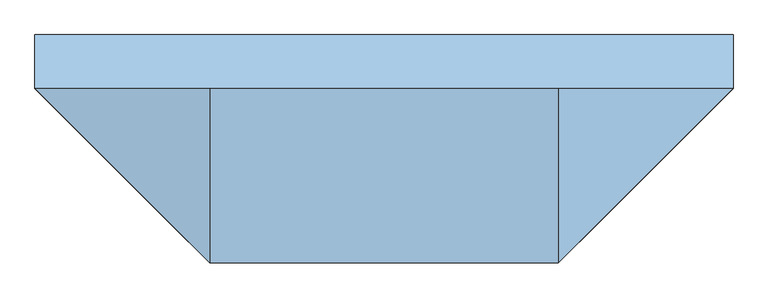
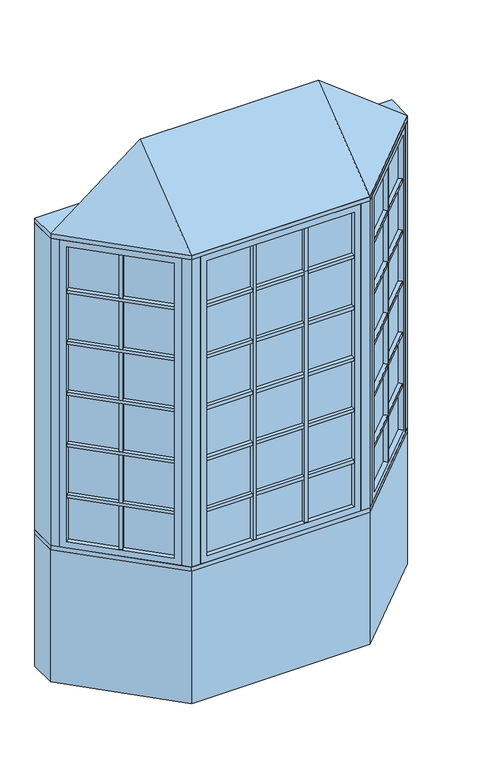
"""IFC4 building model written with IfcOpenShell, lengths in millimetres: window geometry, Pollard_Windows_Tudor Casement Bows and Bays : AML-BAY 45 AFR0518-10-600_GC."""

from ifc_helpers import new_model, si_unit, frame, origin, origin_with_axes, place, context, project, spatial, polyline, outline, extrude, faceted_brep, source, transform, mapped, element, save


def window_abdb0844(model_context):
    return source(origin(), model_context, "Body", "SolidModel", [
        extrude(outline(polyline([(553.0114193, -506.9608753), (537.4550701, -491.4045261), (915.116171, -113.7434252), (930.6725202, -129.2997743), (553.0114193, -506.9608753)])), frame((0.0, 0.0, 1690.998), z_axis=(0.0, 0.0, 1.0), x_axis=(1.0, 0.0, 0.0)), (0.0, 0.0, 1.0), 18.0),
        extrude(outline(polyline([(533.8629677, -487.8124236), (518.3066185, -472.2560744), (895.9677194, -94.5949735), (911.5240686, -110.1513227), (533.8629677, -487.8124236)])), frame((0.0, 0.0, 1690.998), z_axis=(0.0, 0.0, 1.0), x_axis=(1.0, 0.0, 0.0)), (0.0, 0.0, 1.0), 18.0),
        extrude(outline(polyline([(553.0114193, -506.9608753), (537.4550701, -491.4045261), (915.116171, -113.7434252), (930.6725202, -129.2997743), (553.0114193, -506.9608753)])), frame((0.0, 0.0, 1090.998), z_axis=(0.0, 0.0, 1.0), x_axis=(1.0, 0.0, 0.0)), (0.0, 0.0, 1.0), 18.0),
        extrude(outline(polyline([(533.8629677, -487.8124236), (518.3066185, -472.2560744), (895.9677194, -94.5949735), (911.5240686, -110.1513227), (533.8629677, -487.8124236)])), frame((0.0, 0.0, 1090.998), z_axis=(0.0, 0.0, 1.0), x_axis=(1.0, 0.0, 0.0)), (0.0, 0.0, 1.0), 18.0),
        extrude(outline(polyline([(553.0114193, -506.9608753), (537.4550701, -491.4045261), (915.116171, -113.7434252), (930.6725202, -129.2997743), (553.0114193, -506.9608753)])), frame((0.0, 0.0, 1390.998), z_axis=(0.0, 0.0, 1.0), x_axis=(1.0, 0.0, 0.0)), (0.0, 0.0, 1.0), 18.0),
        extrude(outline(polyline([(533.8629677, -487.8124236), (518.3066185, -472.2560744), (895.9677194, -94.5949735), (911.5240686, -110.1513227), (533.8629677, -487.8124236)])), frame((0.0, 0.0, 1390.998), z_axis=(0.0, 0.0, 1.0), x_axis=(1.0, 0.0, 0.0)), (0.0, 0.0, 1.0), 18.0),
        extrude(outline(polyline([(553.0114193, -506.9608753), (537.4550701, -491.4045261), (915.116171, -113.7434252), (930.6725202, -129.2997743), (553.0114193, -506.9608753)])), frame((0.0, 0.0, 1990.998), z_axis=(0.0, 0.0, 1.0), x_axis=(1.0, 0.0, 0.0)), (0.0, 0.0, 1.0), 18.0),
        extrude(outline(polyline([(533.8629677, -487.8124236), (518.3066185, -472.2560744), (895.9677194, -94.5949735), (911.5240686, -110.1513227), (533.8629677, -487.8124236)])), frame((0.0, 0.0, 1990.998), z_axis=(0.0, 0.0, 1.0), x_axis=(1.0, 0.0, 0.0)), (0.0, 0.0, 1.0), 18.0),
        extrude(outline(polyline([(553.0114193, -506.9608753), (537.4550701, -491.4045261), (915.116171, -113.7434252), (930.6725202, -129.2997743), (553.0114193, -506.9608753)])), frame((0.0, 0.0, 2290.998), z_axis=(0.0, 0.0, 1.0), x_axis=(1.0, 0.0, 0.0)), (0.0, 0.0, 1.0), 18.0),
        extrude(outline(polyline([(533.8629677, -487.8124236), (518.3066185, -472.2560744), (895.9677194, -94.5949735), (911.5240686, -110.1513227), (533.8629677, -487.8124236)])), frame((0.0, 0.0, 2290.998), z_axis=(0.0, 0.0, 1.0), x_axis=(1.0, 0.0, 0.0)), (0.0, 0.0, 1.0), 18.0),
        extrude(outline(polyline([(732.6495816, -296.2100146), (748.2059308, -311.7663638), (735.4780087, -324.4942858), (719.9216595, -308.9379366), (732.6495816, -296.2100146)])), frame((0.0, 0.0, 835.8628), z_axis=(0.0, 0.0, 1.0), x_axis=(1.0, 0.0, 0.0)), (0.0, 0.0, 1.0), 1728.2704),
        extrude(outline(polyline([(729.0574791, -292.6179121), (716.3295571, -305.3458342), (700.7732079, -289.789485), (713.50113, -277.0615629), (729.0574791, -292.6179121)])), frame((0.0, 0.0, 835.8628), z_axis=(0.0, 0.0, 1.0), x_axis=(1.0, 0.0, 0.0)), (0.0, 0.0, 1.0), 1728.2704),
        extrude(outline(polyline([(924.0964271, -104.763169), (528.474814, -500.3847822), (524.8827115, -496.7926797), (920.5043247, -101.1710666), (924.0964271, -104.763169)])), frame((0.0, 0.0, 823.1628), z_axis=(0.0, 0.0, 1.0), x_axis=(1.0, 0.0, 0.0)), (0.0, 0.0, 1.0), 1753.6704),
        faceted_brep([(915.116171, -113.7434252, 835.8628), (933.0766833, -131.7039374, 835.8628), (933.0766833, -131.7039374, 2564.1332), (915.116171, -113.7434252, 2564.1332), (920.5043247, -101.1710666, 823.1628), (924.0964271, -104.763169, 823.1628), (924.0964271, -104.763169, 2576.8332), (920.5043247, -101.1710666, 2576.8332), (893.5635563, -92.1908105, 835.8628), (911.5240686, -110.1513227, 835.8628), (911.5240686, -110.1513227, 2564.1332), (893.5635563, -92.1908105, 2564.1332), (958.4369265, -106.3436941, 799.998), (918.9237996, -66.8305672, 799.998), (918.9237996, -66.8305672, 2599.998), (958.4369265, -106.3436941, 2599.998), (555.4155823, -509.3650383, 2564.1332), (537.4550701, -491.4045261, 2564.1332), (528.474814, -500.3847822, 2576.8332), (524.8827115, -496.7926797, 2576.8332), (533.8629677, -487.8124236, 2564.1332), (515.9024554, -469.8519114, 2564.1332), (490.5422121, -495.2121547, 2599.998), (530.0553391, -534.7252816, 2599.998), (555.4155823, -509.3650383, 835.8628), (537.4550701, -491.4045261, 835.8628), (528.474814, -500.3847822, 823.1628), (524.8827115, -496.7926797, 823.1628), (533.8629677, -487.8124236, 835.8628), (515.9024554, -469.8519114, 835.8628), (490.5422121, -495.2121547, 799.998), (530.0553391, -534.7252816, 799.998)], [[[0, 1, 2, 3]], [[4, 5, 6, 7]], [[8, 9, 10, 11]], [[12, 13, 14, 15]], [[3, 2, 16, 17]], [[7, 6, 18, 19]], [[11, 10, 20, 21]], [[15, 14, 22, 23]], [[17, 16, 24, 25]], [[19, 18, 26, 27]], [[21, 20, 28, 29]], [[23, 22, 30, 31]], [[25, 24, 1, 0]], [[5, 26, 18, 6], [3, 17, 25, 0]], [[27, 26, 5, 4]], [[7, 19, 27, 4], [9, 28, 20, 10]], [[29, 28, 9, 8]], [[13, 30, 22, 14], [11, 21, 29, 8]], [[31, 30, 13, 12]], [[15, 23, 31, 12], [1, 24, 16, 2]]]),
        extrude(outline(polyline([(152.5118667, -544.6806207), (152.5118667, -566.6806207), (134.5118667, -566.6806207), (134.5118667, -544.6806207), (152.5118667, -544.6806207)])), frame((0.0, 0.0, 835.8628), z_axis=(0.0, 0.0, 1.0), x_axis=(1.0, 0.0, 0.0)), (0.0, 0.0, 1.0), 1728.2704),
        extrude(outline(polyline([(152.5118667, -539.6006207), (134.5118667, -539.6006207), (134.5118667, -517.6006207), (152.5118667, -517.6006207), (152.5118667, -539.6006207)])), frame((0.0, 0.0, 835.8628), z_axis=(0.0, 0.0, 1.0), x_axis=(1.0, 0.0, 0.0)), (0.0, 0.0, 1.0), 1728.2704),
        extrude(outline(polyline([(-134.5118667, -544.6806207), (-134.5118667, -566.6806207), (-152.5118667, -566.6806207), (-152.5118667, -544.6806207), (-134.5118667, -544.6806207)])), frame((0.0, 0.0, 835.8628), z_axis=(0.0, 0.0, 1.0), x_axis=(1.0, 0.0, 0.0)), (0.0, 0.0, 1.0), 1728.2704),
        extrude(outline(polyline([(-134.5118667, -539.6006207), (-152.5118667, -539.6006207), (-152.5118667, -517.6006207), (-134.5118667, -517.6006207), (-134.5118667, -539.6006207)])), frame((0.0, 0.0, 835.8628), z_axis=(0.0, 0.0, 1.0), x_axis=(1.0, 0.0, 0.0)), (0.0, 0.0, 1.0), 1728.2704),
        extrude(outline(polyline([(-408.8352, -566.6806207), (-408.8352, -544.6806207), (408.8352, -544.6806207), (408.8352, -566.6806207), (-408.8352, -566.6806207)])), frame((0.0, 0.0, 1090.998), z_axis=(0.0, 0.0, 1.0), x_axis=(1.0, 0.0, 0.0)), (0.0, 0.0, 1.0), 18.0),
        extrude(outline(polyline([(-408.8352, -539.6006207), (-408.8352, -517.6006207), (408.8352, -517.6006207), (408.8352, -539.6006207), (-408.8352, -539.6006207)])), frame((0.0, 0.0, 1090.998), z_axis=(0.0, 0.0, 1.0), x_axis=(1.0, 0.0, 0.0)), (0.0, 0.0, 1.0), 18.0),
        extrude(outline(polyline([(-408.8352, -566.6806207), (-408.8352, -544.6806207), (408.8352, -544.6806207), (408.8352, -566.6806207), (-408.8352, -566.6806207)])), frame((0.0, 0.0, 1390.998), z_axis=(0.0, 0.0, 1.0), x_axis=(1.0, 0.0, 0.0)), (0.0, 0.0, 1.0), 18.0),
        extrude(outline(polyline([(-408.8352, -539.6006207), (-408.8352, -517.6006207), (408.8352, -517.6006207), (408.8352, -539.6006207), (-408.8352, -539.6006207)])), frame((0.0, 0.0, 1390.998), z_axis=(0.0, 0.0, 1.0), x_axis=(1.0, 0.0, 0.0)), (0.0, 0.0, 1.0), 18.0),
        extrude(outline(polyline([(-408.8352, -566.6806207), (-408.8352, -544.6806207), (408.8352, -544.6806207), (408.8352, -566.6806207), (-408.8352, -566.6806207)])), frame((0.0, 0.0, 1690.998), z_axis=(0.0, 0.0, 1.0), x_axis=(1.0, 0.0, 0.0)), (0.0, 0.0, 1.0), 18.0),
        extrude(outline(polyline([(-408.8352, -539.6006207), (-408.8352, -517.6006207), (408.8352, -517.6006207), (408.8352, -539.6006207), (-408.8352, -539.6006207)])), frame((0.0, 0.0, 1690.998), z_axis=(0.0, 0.0, 1.0), x_axis=(1.0, 0.0, 0.0)), (0.0, 0.0, 1.0), 18.0),
        extrude(outline(polyline([(-408.8352, -566.6806207), (-408.8352, -544.6806207), (408.8352, -544.6806207), (408.8352, -566.6806207), (-408.8352, -566.6806207)])), frame((0.0, 0.0, 1990.998), z_axis=(0.0, 0.0, 1.0), x_axis=(1.0, 0.0, 0.0)), (0.0, 0.0, 1.0), 18.0),
        extrude(outline(polyline([(-408.8352, -539.6006207), (-408.8352, -517.6006207), (408.8352, -517.6006207), (408.8352, -539.6006207), (-408.8352, -539.6006207)])), frame((0.0, 0.0, 1990.998), z_axis=(0.0, 0.0, 1.0), x_axis=(1.0, 0.0, 0.0)), (0.0, 0.0, 1.0), 18.0),
        extrude(outline(polyline([(-930.6725202, -129.2997743), (-915.116171, -113.7434252), (-537.4550701, -491.4045261), (-553.0114193, -506.9608753), (-930.6725202, -129.2997743)])), frame((0.0, 0.0, 1090.998), z_axis=(0.0, 0.0, 1.0), x_axis=(1.0, 0.0, 0.0)), (0.0, 0.0, 1.0), 18.0),
        extrude(outline(polyline([(-911.5240686, -110.1513227), (-895.9677194, -94.5949735), (-518.3066185, -472.2560744), (-533.8629677, -487.8124236), (-911.5240686, -110.1513227)])), frame((0.0, 0.0, 1090.998), z_axis=(0.0, 0.0, 1.0), x_axis=(1.0, 0.0, 0.0)), (0.0, 0.0, 1.0), 18.0),
        extrude(outline(polyline([(-930.6725202, -129.2997743), (-915.116171, -113.7434252), (-537.4550701, -491.4045261), (-553.0114193, -506.9608753), (-930.6725202, -129.2997743)])), frame((0.0, 0.0, 1390.998), z_axis=(0.0, 0.0, 1.0), x_axis=(1.0, 0.0, 0.0)), (0.0, 0.0, 1.0), 18.0),
        extrude(outline(polyline([(-911.5240686, -110.1513227), (-895.9677194, -94.5949735), (-518.3066185, -472.2560744), (-533.8629677, -487.8124236), (-911.5240686, -110.1513227)])), frame((0.0, 0.0, 1390.998), z_axis=(0.0, 0.0, 1.0), x_axis=(1.0, 0.0, 0.0)), (0.0, 0.0, 1.0), 18.0),
        extrude(outline(polyline([(-930.6725202, -129.2997743), (-915.116171, -113.7434252), (-537.4550701, -491.4045261), (-553.0114193, -506.9608753), (-930.6725202, -129.2997743)])), frame((0.0, 0.0, 1690.998), z_axis=(0.0, 0.0, 1.0), x_axis=(1.0, 0.0, 0.0)), (0.0, 0.0, 1.0), 18.0),
        extrude(outline(polyline([(-911.5240686, -110.1513227), (-895.9677194, -94.5949735), (-518.3066185, -472.2560744), (-533.8629677, -487.8124236), (-911.5240686, -110.1513227)])), frame((0.0, 0.0, 1690.998), z_axis=(0.0, 0.0, 1.0), x_axis=(1.0, 0.0, 0.0)), (0.0, 0.0, 1.0), 18.0),
        extrude(outline(polyline([(-930.6725202, -129.2997743), (-915.116171, -113.7434252), (-537.4550701, -491.4045261), (-553.0114193, -506.9608753), (-930.6725202, -129.2997743)])), frame((0.0, 0.0, 1990.998), z_axis=(0.0, 0.0, 1.0), x_axis=(1.0, 0.0, 0.0)), (0.0, 0.0, 1.0), 18.0),
        extrude(outline(polyline([(-911.5240686, -110.1513227), (-895.9677194, -94.5949735), (-518.3066185, -472.2560744), (-533.8629677, -487.8124236), (-911.5240686, -110.1513227)])), frame((0.0, 0.0, 1990.998), z_axis=(0.0, 0.0, 1.0), x_axis=(1.0, 0.0, 0.0)), (0.0, 0.0, 1.0), 18.0),
        extrude(outline(polyline([(-930.6725202, -129.2997743), (-915.116171, -113.7434252), (-537.4550701, -491.4045261), (-553.0114193, -506.9608753), (-930.6725202, -129.2997743)])), frame((0.0, 0.0, 2290.998), z_axis=(0.0, 0.0, 1.0), x_axis=(1.0, 0.0, 0.0)), (0.0, 0.0, 1.0), 18.0),
        extrude(outline(polyline([(-911.5240686, -110.1513227), (-895.9677194, -94.5949735), (-518.3066185, -472.2560744), (-533.8629677, -487.8124236), (-911.5240686, -110.1513227)])), frame((0.0, 0.0, 2290.998), z_axis=(0.0, 0.0, 1.0), x_axis=(1.0, 0.0, 0.0)), (0.0, 0.0, 1.0), 18.0),
        extrude(outline(polyline([(-408.8352, -566.6806207), (-408.8352, -544.6806207), (408.8352, -544.6806207), (408.8352, -566.6806207), (-408.8352, -566.6806207)])), frame((0.0, 0.0, 2290.998), z_axis=(0.0, 0.0, 1.0), x_axis=(1.0, 0.0, 0.0)), (0.0, 0.0, 1.0), 18.0),
        extrude(outline(polyline([(-408.8352, -539.6006207), (-408.8352, -517.6006207), (408.8352, -517.6006207), (408.8352, -539.6006207), (-408.8352, -539.6006207)])), frame((0.0, 0.0, 2290.998), z_axis=(0.0, 0.0, 1.0), x_axis=(1.0, 0.0, 0.0)), (0.0, 0.0, 1.0), 18.0),
        extrude(outline(polyline([(-719.9216595, -308.9379366), (-735.4780087, -324.4942858), (-748.2059308, -311.7663638), (-732.6495816, -296.2100146), (-719.9216595, -308.9379366)])), frame((0.0, 0.0, 835.8628), z_axis=(0.0, 0.0, 1.0), x_axis=(1.0, 0.0, 0.0)), (0.0, 0.0, 1.0), 1728.2704),
        extrude(outline(polyline([(-716.3295571, -305.3458342), (-729.0574791, -292.6179121), (-713.50113, -277.0615629), (-700.7732079, -289.789485), (-716.3295571, -305.3458342)])), frame((0.0, 0.0, 835.8628), z_axis=(0.0, 0.0, 1.0), x_axis=(1.0, 0.0, 0.0)), (0.0, 0.0, 1.0), 1728.2704),
        extrude(outline(polyline([(-528.474814, -500.3847822), (-924.0964271, -104.763169), (-920.5043247, -101.1710666), (-524.8827115, -496.7926797), (-528.474814, -500.3847822)])), frame((0.0, 0.0, 823.1628), z_axis=(0.0, 0.0, 1.0), x_axis=(1.0, 0.0, 0.0)), (0.0, 0.0, 1.0), 1753.6704),
        faceted_brep([(-533.8629677, -487.8124236, 2564.1332), (-515.9024554, -469.8519114, 2564.1332), (-515.9024554, -469.8519114, 835.8628), (-533.8629677, -487.8124236, 835.8628), (-528.474814, -500.3847822, 2576.8332), (-524.8827115, -496.7926797, 2576.8332), (-524.8827115, -496.7926797, 823.1628), (-528.474814, -500.3847822, 823.1628), (-555.4155823, -509.3650383, 2564.1332), (-537.4550701, -491.4045261, 2564.1332), (-537.4550701, -491.4045261, 835.8628), (-555.4155823, -509.3650383, 835.8628), (-490.5422121, -495.2121547, 2599.998), (-530.0553391, -534.7252816, 2599.998), (-530.0553391, -534.7252816, 799.998), (-490.5422121, -495.2121547, 799.998), (-893.5635563, -92.1908105, 835.8628), (-911.5240686, -110.1513227, 835.8628), (-920.5043247, -101.1710666, 823.1628), (-924.0964271, -104.763169, 823.1628), (-915.116171, -113.7434252, 835.8628), (-933.0766833, -131.7039374, 835.8628), (-958.4369265, -106.3436941, 799.998), (-918.9237996, -66.8305672, 799.998), (-893.5635563, -92.1908105, 2564.1332), (-911.5240686, -110.1513227, 2564.1332), (-920.5043247, -101.1710666, 2576.8332), (-924.0964271, -104.763169, 2576.8332), (-915.116171, -113.7434252, 2564.1332), (-933.0766833, -131.7039374, 2564.1332), (-958.4369265, -106.3436941, 2599.998), (-918.9237996, -66.8305672, 2599.998)], [[[0, 1, 2, 3]], [[4, 5, 6, 7]], [[8, 9, 10, 11]], [[12, 13, 14, 15]], [[3, 2, 16, 17]], [[7, 6, 18, 19]], [[11, 10, 20, 21]], [[15, 14, 22, 23]], [[17, 16, 24, 25]], [[19, 18, 26, 27]], [[21, 20, 28, 29]], [[23, 22, 30, 31]], [[15, 23, 31, 12], [1, 24, 16, 2]], [[25, 24, 1, 0]], [[5, 26, 18, 6], [3, 17, 25, 0]], [[27, 26, 5, 4]], [[7, 19, 27, 4], [9, 28, 20, 10]], [[29, 28, 9, 8]], [[13, 30, 22, 14], [11, 21, 29, 8]], [[31, 30, 13, 12]]]),
        extrude(outline(polyline([(421.5352, -544.6806207), (-421.5352, -544.6806207), (-421.5352, -539.6006207), (421.5352, -539.6006207), (421.5352, -544.6806207)])), frame((0.0, 0.0, 823.1628), z_axis=(0.0, 0.0, 1.0), x_axis=(1.0, 0.0, 0.0)), (0.0, 0.0, 1.0), 1753.6704),
        faceted_brep([(408.8352, -544.6806207, 835.8628), (408.8352, -570.0806207, 835.8628), (408.8352, -570.0806207, 2564.1332), (408.8352, -544.6806207, 2564.1332), (421.5352, -539.6006207, 823.1628), (421.5352, -544.6806207, 823.1628), (421.5352, -544.6806207, 2576.8332), (421.5352, -539.6006207, 2576.8332), (408.8352, -514.2006207, 835.8628), (408.8352, -539.6006207, 835.8628), (408.8352, -539.6006207, 2564.1332), (408.8352, -514.2006207, 2564.1332), (444.7, -570.0806207, 799.998), (444.7, -514.2006207, 799.998), (444.7, -514.2006207, 2599.998), (444.7, -570.0806207, 2599.998), (-408.8352, -570.0806207, 2564.1332), (-408.8352, -544.6806207, 2564.1332), (-421.5352, -544.6806207, 2576.8332), (-421.5352, -539.6006207, 2576.8332), (-408.8352, -539.6006207, 2564.1332), (-408.8352, -514.2006207, 2564.1332), (-444.7, -514.2006207, 2599.998), (-444.7, -570.0806207, 2599.998), (-408.8352, -570.0806207, 835.8628), (-408.8352, -544.6806207, 835.8628), (-421.5352, -544.6806207, 823.1628), (-421.5352, -539.6006207, 823.1628), (-408.8352, -539.6006207, 835.8628), (-408.8352, -514.2006207, 835.8628), (-444.7, -514.2006207, 799.998), (-444.7, -570.0806207, 799.998)], [[[0, 1, 2, 3]], [[4, 5, 6, 7]], [[8, 9, 10, 11]], [[12, 13, 14, 15]], [[3, 2, 16, 17]], [[7, 6, 18, 19]], [[11, 10, 20, 21]], [[15, 14, 22, 23]], [[17, 16, 24, 25]], [[19, 18, 26, 27]], [[21, 20, 28, 29]], [[23, 22, 30, 31]], [[15, 23, 31, 12], [1, 24, 16, 2]], [[25, 24, 1, 0]], [[5, 26, 18, 6], [3, 17, 25, 0]], [[27, 26, 5, 4]], [[7, 19, 27, 4], [9, 28, 20, 10]], [[29, 28, 9, 8]], [[13, 30, 22, 14], [11, 21, 29, 8]], [[31, 30, 13, 12]]]),
        faceted_brep([(990.0, -74.7806207, 2625.398), (494.7, -570.0806207, 2625.398), (-494.7, -570.0806207, 2625.398), (-990.0, -74.7806207, 2625.398), (-494.7, -74.7806207, 3006.398), (494.7, -74.7806207, 3006.398)], [[[0, 1, 2, 3]], [[3, 2, 4]], [[2, 1, 5, 4]], [[1, 0, 5]], [[0, 3, 4, 5]]]),
        extrude(outline(polyline([(-990.0, 77.6193793), (990.0, 77.6193793), (990.0, -74.7806207), (494.7, -570.0806207), (-494.7, -570.0806207), (-990.0, -74.7806207), (-990.0, 77.6193793)])), frame((0.0, 0.0, 2599.998), z_axis=(0.0, 0.0, 1.0), x_axis=(1.0, 0.0, 0.0)), (0.0, 0.0, 1.0), 25.4),
        extrude(outline(polyline([(-990.0, -74.7806207), (-990.0, 77.6193793), (-926.8738531, 77.6193793), (-926.8738531, -74.7806207), (-958.4369265, -106.3436941), (-990.0, -74.7806207)])), frame((0.0, 0.0, 799.998), z_axis=(0.0, 0.0, 1.0), x_axis=(1.0, 0.0, 0.0)), (0.0, 0.0, 1.0), 1800.0),
        extrude(outline(polyline([(990.0, 77.6193793), (990.0, -74.7806207), (958.4369265, -106.3436941), (926.8738531, -74.7806207), (926.8738531, 77.6193793), (990.0, 77.6193793)])), frame((0.0, 0.0, 799.998), z_axis=(0.0, 0.0, 1.0), x_axis=(1.0, 0.0, 0.0)), (0.0, 0.0, 1.0), 1800.0),
        extrude(outline(polyline([(494.7, -570.0806207), (444.7, -570.0806207), (444.7, -520.0806207), (473.9893219, -520.0806207), (494.7, -499.3699425), (530.0553391, -534.7252816), (494.7, -570.0806207)])), frame((0.0, 0.0, 799.998), z_axis=(0.0, 0.0, 1.0), x_axis=(1.0, 0.0, 0.0)), (0.0, 0.0, 1.0), 1800.0),
        extrude(outline(polyline([(-494.7, -570.0806207), (-530.0553391, -534.7252816), (-494.7, -499.3699425), (-473.9893219, -520.0806207), (-444.7, -520.0806207), (-444.7, -570.0806207), (-494.7, -570.0806207)])), frame((0.0, 0.0, 799.998), z_axis=(0.0, 0.0, 1.0), x_axis=(1.0, 0.0, 0.0)), (0.0, 0.0, 1.0), 1800.0),
        extrude(outline(polyline([(-494.7, -570.0806207), (-990.0, -74.7806207), (-990.0, 77.6193793), (-926.8738531, 77.6193793), (-431.5738531, -417.6806207), (431.5738531, -417.6806207), (926.8738531, 77.6193793), (990.0, 77.6193793), (990.0, -74.7806207), (494.7, -570.0806207), (-494.7, -570.0806207)])), frame((0.0, 0.0, 774.598), z_axis=(0.0, 0.0, 1.0), x_axis=(1.0, 0.0, 0.0)), (0.0, 0.0, 1.0), 25.4),
        extrude(outline(polyline([(-990.0, -74.7806207), (-990.0, 77.6193793), (-926.8738531, 77.6193793), (-431.5738531, -417.6806207), (431.5738531, -417.6806207), (926.8738531, 77.6193793), (990.0, 77.6193793), (990.0, -74.7806207), (494.7, -570.0806207), (-494.7, -570.0806207), (-990.0, -74.7806207)])), origin_with_axes(), (0.0, 0.0, 1.0), 774.598),
    ])


if __name__ == "__main__":
    model = new_model("IFC4")
    model_context = context("Model", 3, world=origin())
    ifc_project = project(units=[si_unit("LENGTHUNIT", "METRE", prefix="MILLI")], contexts=[model_context])
    site = spatial("IfcSite", under=ifc_project)
    building = spatial("IfcBuilding", under=site)
    placement = place(None, origin())
    window_shape = window_abdb0844(model_context)
    element("IfcWindow", 1, ObjectType="Pollard_Windows_Tudor Casement Bows and Bays : AML-BAY 45 AFR0518-10-600_GC", at=placement, inside=building, context=model_context, shape_type="MappedRepresentation", body=[
        mapped(window_shape, transform((0.0, 0.0, 0.0), x_axis=(1.0, 0.0, 0.0), y_axis=(0.0, 1.0, 0.0), z_axis=(0.0, 0.0, 1.0))),
    ])
    save(model, "model.ifc")
